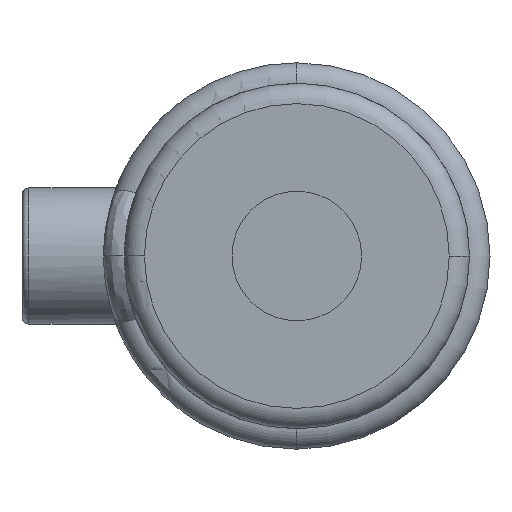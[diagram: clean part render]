
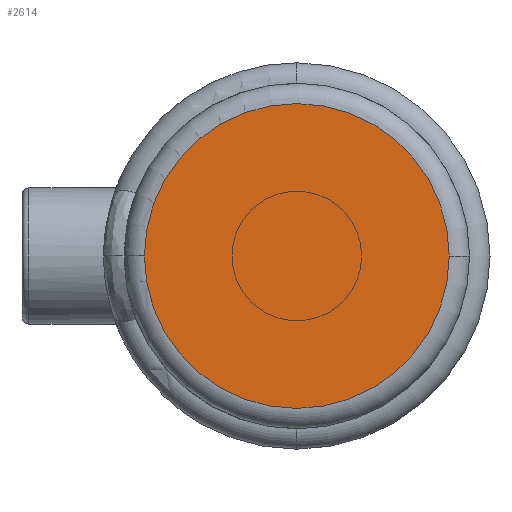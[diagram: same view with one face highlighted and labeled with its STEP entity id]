
A CAD part, left-side view. The second image highlights one B-rep face of the part: STEP entity #2614.
In plain terms, the highlighted planar face has unit normal (-1, 0, 0).
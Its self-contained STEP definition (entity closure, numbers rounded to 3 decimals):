
#67 = DIRECTION ( 'NONE',  ( -1., 0., 0. ) ) ;
#416 = ORIENTED_EDGE ( 'NONE', *, *, #2196, .T. ) ;
#430 = VERTEX_POINT ( 'NONE', #2687 ) ;
#773 = EDGE_CURVE ( 'NONE', #3824, #430, #3100, .T. ) ;
#866 = DIRECTION ( 'NONE',  ( -1., 0., 0. ) ) ;
#990 = CARTESIAN_POINT ( 'NONE',  ( 0., 0., 0. ) ) ;
#1196 = EDGE_LOOP ( 'NONE', ( #416, #1997 ) ) ;
#1321 = PLANE ( 'NONE',  #2408 ) ;
#1695 = FACE_OUTER_BOUND ( 'NONE', #1196, .T. ) ;
#1997 = ORIENTED_EDGE ( 'NONE', *, *, #773, .T. ) ;
#2001 = DIRECTION ( 'NONE',  ( 0., -1., 0. ) ) ;
#2039 = AXIS2_PLACEMENT_3D ( 'NONE', #2859, #866, #3201 ) ;
#2073 = CARTESIAN_POINT ( 'NONE',  ( 0., 0., 0. ) ) ;
#2196 = EDGE_CURVE ( 'NONE', #430, #3824, #3207, .T. ) ;
#2289 = AXIS2_PLACEMENT_3D ( 'NONE', #2073, #67, #2410 ) ;
#2408 = AXIS2_PLACEMENT_3D ( 'NONE', #990, #4008, #2001 ) ;
#2410 = DIRECTION ( 'NONE',  ( 0., -1., 0. ) ) ;
#2614 = ADVANCED_FACE ( 'NONE', ( #1695 ), #1321, .T. ) ;
#2687 = CARTESIAN_POINT ( 'NONE',  ( 0., -22.4, 0. ) ) ;
#2859 = CARTESIAN_POINT ( 'NONE',  ( 0., 0., 0. ) ) ;
#2919 = CARTESIAN_POINT ( 'NONE',  ( 0., 22.4, 0. ) ) ;
#3100 = CIRCLE ( 'NONE', #2289, 22.4 ) ;
#3201 = DIRECTION ( 'NONE',  ( 0., -1., 0. ) ) ;
#3207 = CIRCLE ( 'NONE', #2039, 22.4 ) ;
#3824 = VERTEX_POINT ( 'NONE', #2919 ) ;
#4008 = DIRECTION ( 'NONE',  ( -1., 0., 0. ) ) ;
